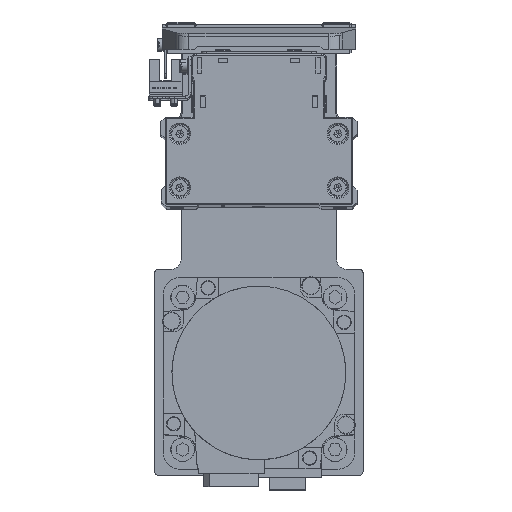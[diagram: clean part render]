
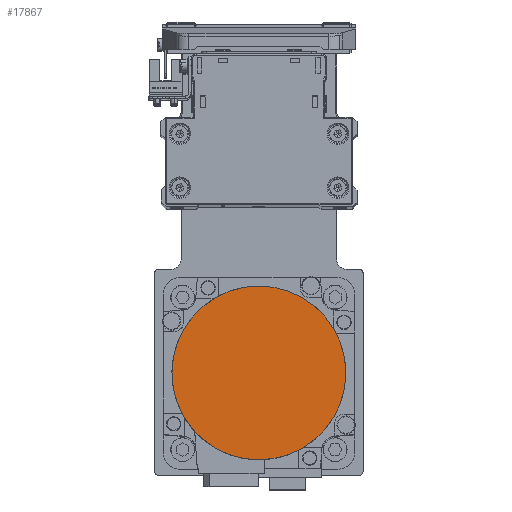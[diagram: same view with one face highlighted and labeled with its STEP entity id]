
A CAD part, top view. The second image highlights one B-rep face of the part: STEP entity #17867.
In plain terms, the highlighted planar face has unit normal (0, 0, 1) as drawn and (0, 0, -1) by its records, which use the part's own axes.
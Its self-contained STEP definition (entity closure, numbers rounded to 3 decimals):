
#2238 = FACE_OUTER_BOUND ( 'NONE', #12558, .T. ) ;
#3864 = ORIENTED_EDGE ( 'NONE', *, *, #5381, .F. ) ;
#5381 = EDGE_CURVE ( 'NONE', #11863, #12263, #38212, .T. ) ;
#7671 = CARTESIAN_POINT ( 'NONE',  ( 0., -36.3, -122.2 ) ) ;
#9005 = DIRECTION ( 'NONE',  ( 0., 0., 1. ) ) ;
#11399 = DIRECTION ( 'NONE',  ( 1., 0., 0. ) ) ;
#11863 = VERTEX_POINT ( 'NONE', #23636 ) ;
#12263 = VERTEX_POINT ( 'NONE', #7671 ) ;
#12558 = EDGE_LOOP ( 'NONE', ( #3864, #31640 ) ) ;
#12833 = AXIS2_PLACEMENT_3D ( 'NONE', #13924, #26076, #38219 ) ;
#13924 = CARTESIAN_POINT ( 'NONE',  ( 0., 0., -122.2 ) ) ;
#14396 = PLANE ( 'NONE',  #24935 ) ;
#17867 = ADVANCED_FACE ( 'NONE', ( #2238 ), #14396, .F. ) ;
#21032 = AXIS2_PLACEMENT_3D ( 'NONE', #36284, #9005, #21149 ) ;
#21149 = DIRECTION ( 'NONE',  ( 0., 1., 0. ) ) ;
#22594 = EDGE_CURVE ( 'NONE', #12263, #11863, #29987, .T. ) ;
#23636 = CARTESIAN_POINT ( 'NONE',  ( 0., 36.3, -122.2 ) ) ;
#24935 = AXIS2_PLACEMENT_3D ( 'NONE', #26538, #38677, #11399 ) ;
#26076 = DIRECTION ( 'NONE',  ( 0., 0., 1. ) ) ;
#26538 = CARTESIAN_POINT ( 'NONE',  ( 0., 0., -122.2 ) ) ;
#29987 = CIRCLE ( 'NONE', #12833, 36.3 ) ;
#31640 = ORIENTED_EDGE ( 'NONE', *, *, #22594, .F. ) ;
#36284 = CARTESIAN_POINT ( 'NONE',  ( 0., 0., -122.2 ) ) ;
#38212 = CIRCLE ( 'NONE', #21032, 36.3 ) ;
#38219 = DIRECTION ( 'NONE',  ( 0., -1., 0. ) ) ;
#38677 = DIRECTION ( 'NONE',  ( 0., 0., 1. ) ) ;
